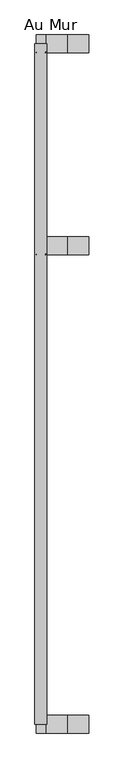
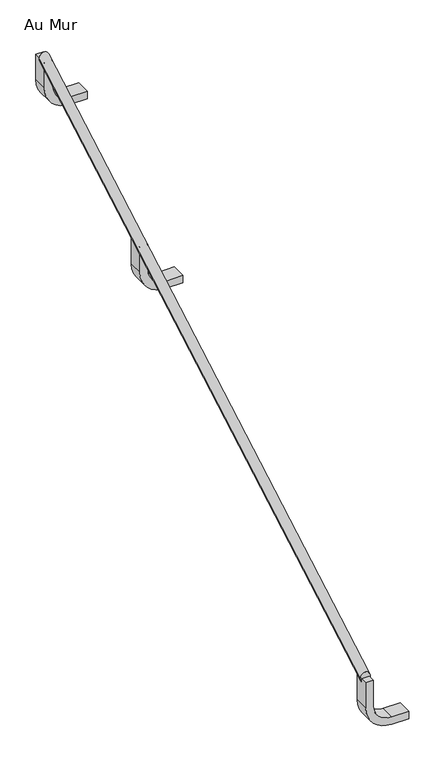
"""IFC4 building model written with IfcOpenShell, lengths in millimetres: railing geometry, Au Mur."""

from ifc_helpers import new_model, si_unit, point, frame, frame_2d, origin, place, context, project, spatial, polyline, circle_curve, ellipse_curve, trimmed, segment, composite_curve, outline, extrude, source, transform, mapped, element, save
from ifc_brep_helpers import plane_surface, cylinder_surface, advanced_brep


def au_mur_20069341(model_context):
    return source(origin(), model_context, "Body", "SolidModel", [
        advanced_brep(
        [(11797.5633683, 1044.024191, 6209.688925), (11817.5633683, 1044.024191, 6209.688925), (11797.5633683, 2182.0685723, 6860.0), (11817.5633683, 2182.0685723, 6860.0)],
        [
            (0, 1, ellipse_curve(frame((11807.5633683, 1044.024191, 6209.688925), z_axis=(0.0, -1.0, 0.0), x_axis=(0.0, 0.0, -1.0)), 11.5175111, 10.0)),
            (1, 0, ellipse_curve(frame((11807.5633683, 1044.024191, 6209.688925), z_axis=(0.0, -1.0, 0.0), x_axis=(0.0, 0.0, -1.0)), 11.5175111, 10.0)),
            (2, 3, ellipse_curve(frame((11807.5633683, 2182.0685723, 6860.0), z_axis=(0.0, 1.0, 0.0), x_axis=(0.0, 0.0, -1.0)), 11.5175111, 10.0)),
            (3, 2, ellipse_curve(frame((11807.5633683, 2182.0685723, 6860.0), z_axis=(0.0, 1.0, 0.0), x_axis=(0.0, 0.0, -1.0)), 11.5175111, 10.0)),
            (0, 2),
            (3, 1),
        ],
        [
            plane_surface(frame((11807.5633683, 1044.024191, 6209.688925), z_axis=(0.0, -1.0, 0.0), x_axis=(0.0, 0.0, 1.0))),
            plane_surface(frame((11807.5633683, 2182.0685723, 6860.0), z_axis=(0.0, 1.0, 0.0), x_axis=(0.0, 0.0, 1.0))),
            cylinder_surface(frame((11807.5633683, 1044.024191, 6209.688925), z_axis=(0.0, -0.8682431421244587, -0.49613893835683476), x_axis=(1.0, 0.0, 0.0)), 10.0),
        ],
        [
            (0, [[1, 2]]),
            (1, [[3, 4]]),
            (2, [[-1, 5, -4, 6]]),
            (2, [[-2, -6, -3, -5]]),
        ],
    ),
        extrude(outline(composite_curve([segment(polyline([(6558.8317821, 11887.5633683), (6574.8317821, 11887.5633683), (6574.8317821, 11852.5633683)]), True, "CONTINUOUS"), segment(trimmed(circle_curve(frame_2d((6611.8317821, 11852.5633683)), 37.0), [point((6574.8317821, 11852.5633683))], [point((6611.8317821, 11815.5633683))], True, "CARTESIAN"), True, "CONTINUOUS"), segment(polyline([(6611.8317821, 11815.5633683), (6666.8317821, 11815.5633683), (6666.8317821, 11799.5633683), (6611.8317821, 11799.5633683)]), True, "CONTINUOUS"), segment(trimmed(circle_curve(frame_2d((6611.8317821, 11852.5633683)), 53.0), [point((6611.8317821, 11799.5633683))], [point((6558.8317821, 11852.5633683))], False, "CARTESIAN"), True, "CONTINUOUS"), segment(polyline([(6558.8317821, 11852.5633683), (6558.8317821, 11887.5633683)]), True, "CONTINUOUS")], self_intersect=False)), frame((0.0, 1829.024191, 0.0), z_axis=(0.0, 1.0, 0.0), x_axis=(0.0, 0.0, 1.0)), (0.0, 0.0, 1.0), 30.0),
        extrude(outline(composite_curve([segment(polyline([(6752.0, 11887.5633683), (6768.0, 11887.5633683), (6768.0, 11852.5633683)]), True, "CONTINUOUS"), segment(trimmed(circle_curve(frame_2d((6805.0, 11852.5633683)), 37.0), [point((6768.0, 11852.5633683))], [point((6805.0, 11815.5633683))], True, "CARTESIAN"), True, "CONTINUOUS"), segment(polyline([(6805.0, 11815.5633683), (6860.0, 11815.5633683), (6860.0, 11799.5633683), (6805.0, 11799.5633683)]), True, "CONTINUOUS"), segment(trimmed(circle_curve(frame_2d((6805.0, 11852.5633683)), 53.0), [point((6805.0, 11799.5633683))], [point((6752.0, 11852.5633683))], False, "CARTESIAN"), True, "CONTINUOUS"), segment(polyline([(6752.0, 11852.5633683), (6752.0, 11887.5633683)]), True, "CONTINUOUS")], self_intersect=False)), frame((0.0, 2167.0685723, 0.0), z_axis=(0.0, 1.0, 0.0), x_axis=(0.0, 0.0, 1.0)), (0.0, 0.0, 1.0), 30.0),
        extrude(outline(composite_curve([segment(polyline([(6101.688925, 11887.5633683), (6117.688925, 11887.5633683), (6117.688925, 11852.5633683)]), True, "CONTINUOUS"), segment(trimmed(circle_curve(frame_2d((6154.688925, 11852.5633683)), 37.0), [point((6117.688925, 11852.5633683))], [point((6154.688925, 11815.5633683))], True, "CARTESIAN"), True, "CONTINUOUS"), segment(polyline([(6154.688925, 11815.5633683), (6209.688925, 11815.5633683), (6209.688925, 11799.5633683), (6154.688925, 11799.5633683)]), True, "CONTINUOUS"), segment(trimmed(circle_curve(frame_2d((6154.688925, 11852.5633683)), 53.0), [point((6154.688925, 11799.5633683))], [point((6101.688925, 11852.5633683))], False, "CARTESIAN"), True, "CONTINUOUS"), segment(polyline([(6101.688925, 11852.5633683), (6101.688925, 11887.5633683)]), True, "CONTINUOUS")], self_intersect=False)), frame((0.0, 1029.024191, 0.0), z_axis=(0.0, 1.0, 0.0), x_axis=(0.0, 0.0, 1.0)), (0.0, 0.0, 1.0), 30.0),
    ])


if __name__ == "__main__":
    model = new_model("IFC4")
    model_context = context("Model", 3, world=origin())
    ifc_project = project(units=[si_unit("LENGTHUNIT", "METRE", prefix="MILLI")], contexts=[model_context])
    site = spatial("IfcSite", under=ifc_project)
    building = spatial("IfcBuilding", under=site)
    placement = place(None, origin())
    au_mur_shape = au_mur_20069341(model_context)
    element("IfcRailing", 1, ObjectType="Au Mur", at=placement, inside=building, context=model_context, shape_type="MappedRepresentation", body=[
        mapped(au_mur_shape, transform((0.0, 0.0, 0.0), x_axis=(1.0, 0.0, 0.0), y_axis=(0.0, 1.0, 0.0), z_axis=(0.0, 0.0, 1.0))),
    ])
    save(model, "model.ifc")
